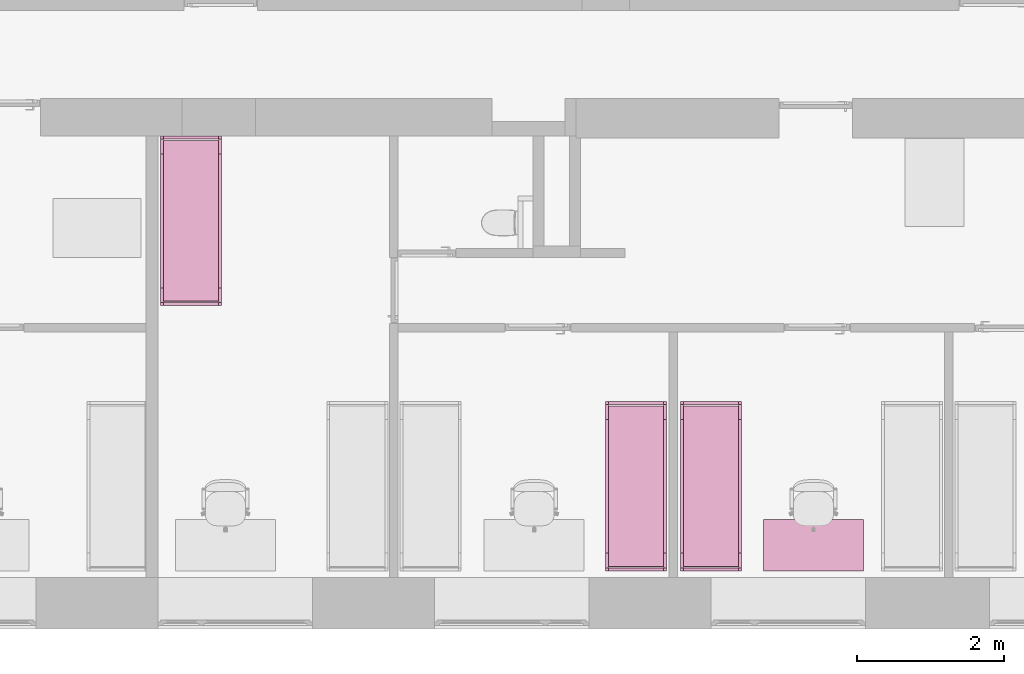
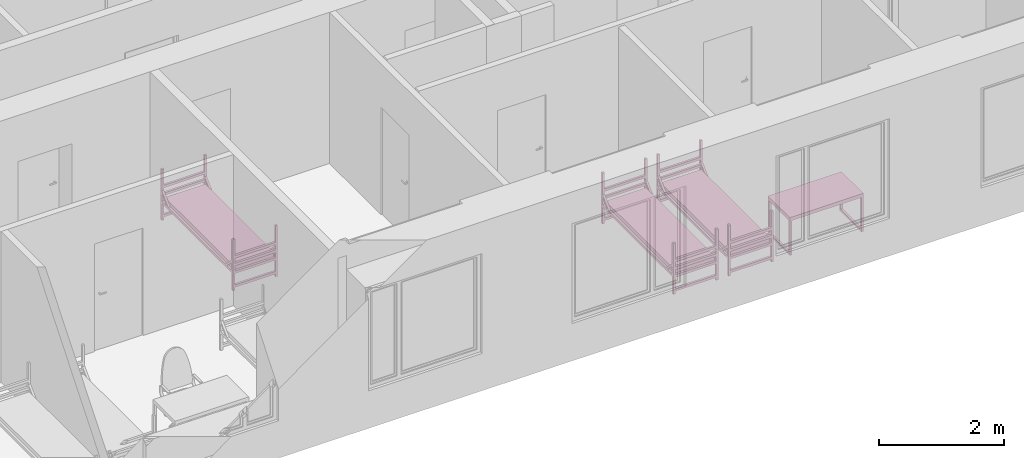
# One storey, part 36 of 46: 4 furnishings.
"""IFC2X3 building model written with IfcOpenShell, lengths in millimetres."""

from ifc_helpers import new_model, entity, si_unit, converted_unit, derived_unit, direction, frame, frame_2d, origin, place, context, subcontext, project, spatial, polyline, circle_curve, parameter, trimmed, segment, composite_curve, rectangle, outline, extrude, faceted_brep, source, transform, mapped, material, material_list, type_object, type_shapes, element, save


model = new_model("IFC2X3")

# Units and contexts
model_context = context("Model", 3, precision=0.01, world=origin(), true_north=direction((6.12303176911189e-17, 1.0)))
body_context = subcontext(model_context, "Body", "Model", "MODEL_VIEW")
ifc_project = project(units=[si_unit("LENGTHUNIT", "METRE", prefix="MILLI"), si_unit("AREAUNIT", "SQUARE_METRE"), si_unit("VOLUMEUNIT", "CUBIC_METRE"), converted_unit("PLANEANGLEUNIT", "DEGREE", entity("IfcRatioMeasure", 0.0174532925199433), si_unit("PLANEANGLEUNIT", "RADIAN"), dimensions=[0, 0, 0, 0, 0, 0, 0]), si_unit("MASSUNIT", "GRAM", prefix="KILO"), derived_unit("MASSDENSITYUNIT", [(si_unit("MASSUNIT", "GRAM", prefix="KILO"), 1), (si_unit("LENGTHUNIT", "METRE"), -3)]), si_unit("TIMEUNIT", "SECOND"), si_unit("FREQUENCYUNIT", "HERTZ"), si_unit("THERMODYNAMICTEMPERATUREUNIT", "DEGREE_CELSIUS"), derived_unit("THERMALTRANSMITTANCEUNIT", [(si_unit("MASSUNIT", "GRAM", prefix="KILO"), 1), (si_unit("THERMODYNAMICTEMPERATUREUNIT", "KELVIN"), -1), (si_unit("TIMEUNIT", "SECOND"), -3)]), derived_unit("VOLUMETRICFLOWRATEUNIT", [(si_unit("LENGTHUNIT", "METRE"), 3), (si_unit("TIMEUNIT", "SECOND"), -1)]), si_unit("ELECTRICCURRENTUNIT", "AMPERE"), si_unit("ELECTRICVOLTAGEUNIT", "VOLT"), si_unit("POWERUNIT", "WATT"), si_unit("FORCEUNIT", "NEWTON", prefix="KILO"), si_unit("ILLUMINANCEUNIT", "LUX"), si_unit("LUMINOUSFLUXUNIT", "LUMEN"), si_unit("LUMINOUSINTENSITYUNIT", "CANDELA"), derived_unit("USERDEFINED", [(si_unit("MASSUNIT", "GRAM", prefix="KILO"), -1), (si_unit("LENGTHUNIT", "METRE"), -2), (si_unit("TIMEUNIT", "SECOND"), 3), (si_unit("LUMINOUSFLUXUNIT", "LUMEN"), 1)]), derived_unit("LINEARVELOCITYUNIT", [(si_unit("LENGTHUNIT", "METRE"), 1), (si_unit("TIMEUNIT", "SECOND"), -1)]), si_unit("PRESSUREUNIT", "PASCAL"), derived_unit("USERDEFINED", [(si_unit("LENGTHUNIT", "METRE"), -2), (si_unit("MASSUNIT", "GRAM", prefix="KILO"), 1), (si_unit("TIMEUNIT", "SECOND"), -2)]), derived_unit("LINEARFORCEUNIT", [(si_unit("MASSUNIT", "GRAM", prefix="KILO"), 1), (si_unit("LENGTHUNIT", "METRE"), 1), (si_unit("TIMEUNIT", "SECOND"), -2), (si_unit("LENGTHUNIT", "METRE"), -1)]), derived_unit("PLANARFORCEUNIT", [(si_unit("MASSUNIT", "GRAM", prefix="KILO"), 1), (si_unit("LENGTHUNIT", "METRE"), 1), (si_unit("TIMEUNIT", "SECOND"), -2), (si_unit("LENGTHUNIT", "METRE"), -2)])], contexts=[model_context])

# Site, building, storey, space
site_placement = place(None, origin())
site = spatial("IfcSite", under=ifc_project, at=site_placement, Name="Default", CompositionType="ELEMENT")
building_placement = place(site_placement, origin())
building = spatial("IfcBuilding", under=site, at=building_placement, Name="SMA ARH", CompositionType="ELEMENT")
storey_placement = place(building_placement, origin())
storey = spatial("IfcBuildingStorey", under=building, at=storey_placement, Name="1 Korrus", CompositionType="ELEMENT", Elevation=0.0)
space_1_placement = place(storey_placement, origin())
space_1 = spatial("IfcSpace", under=storey, at=space_1_placement, Name="1-8", CompositionType="ELEMENT", InteriorOrExteriorSpace="INTERNAL")

# Furnishing
ifc_material_1 = material(Name="Madrats")
furniture_type_1 = type_object("IfcFurnitureType", Name="Kasarmu voodi ühekordne 2308x830:Kasarmu voodi ühekordne 2308x830", material=ifc_material_1)
shared_shape_1 = source(origin(), body_context, "Body", "SweptSolid", [
    extrude(rectangle(XDim=39.9999999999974, YDim=750.000000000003, at=frame_2d((-1.35003119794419e-13, -2.8421709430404e-14), x_axis=(1.0, 0.0))), frame((1.68638457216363, -1226.7969571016, 55.0), z_axis=(0.0, 0.0, 1.0), x_axis=(0.0, -1.0, 0.0)), (0.0, 0.0, 1.0), 49.9999999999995),
    extrude(rectangle(XDim=39.9999999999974, YDim=750.000000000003, at=frame_2d((-1.35003119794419e-13, -2.8421709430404e-14), x_axis=(1.0, 0.0))), frame((1.68638457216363, -1226.7969571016, 325.0), z_axis=(0.0, 0.0, 1.0), x_axis=(0.0, -1.0, 0.0)), (0.0, 0.0, 1.0), 49.9999999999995),
    extrude(rectangle(XDim=39.9999999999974, YDim=750.000000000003, at=frame_2d((-1.35003119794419e-13, -2.8421709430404e-14), x_axis=(1.0, 0.0))), frame((1.68638457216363, -1226.7969571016, 475.0), z_axis=(0.0, 0.0, 1.0), x_axis=(0.0, -1.0, 0.0)), (0.0, 0.0, 1.0), 49.9999999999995),
    extrude(rectangle(XDim=39.9999999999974, YDim=750.000000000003, at=frame_2d((-1.35003119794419e-13, -2.8421709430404e-14), x_axis=(1.0, 0.0))), frame((1.68638457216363, -1226.7969571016, 625.0), z_axis=(0.0, 0.0, 1.0), x_axis=(0.0, -1.0, 0.0)), (0.0, 0.0, 1.0), 50.0000000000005),
    extrude(rectangle(XDim=39.9999999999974, YDim=750.000000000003, at=frame_2d((1.35003119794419e-13, -2.8421709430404e-14), x_axis=(1.0, 0.0))), frame((1.68638457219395, 1041.2030428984, 55.0), z_axis=(0.0, 0.0, 1.0), x_axis=(0.0, -1.0, 0.0)), (0.0, 0.0, 1.0), 50.0000000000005),
    extrude(rectangle(XDim=39.9999999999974, YDim=750.000000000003, at=frame_2d((1.35003119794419e-13, -2.8421709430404e-14), x_axis=(1.0, 0.0))), frame((1.68638457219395, 1041.2030428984, 325.0), z_axis=(0.0, 0.0, 1.0), x_axis=(0.0, -1.0, 0.0)), (0.0, 0.0, 1.0), 50.0000000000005),
    extrude(rectangle(XDim=39.9999999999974, YDim=750.000000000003, at=frame_2d((1.35003119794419e-13, -2.8421709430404e-14), x_axis=(1.0, 0.0))), frame((1.68638457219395, 1041.2030428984, 475.0), z_axis=(0.0, 0.0, 1.0), x_axis=(0.0, -1.0, 0.0)), (0.0, 0.0, 1.0), 50.0000000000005),
    extrude(rectangle(XDim=39.9999999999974, YDim=750.000000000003, at=frame_2d((1.35003119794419e-13, -2.8421709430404e-14), x_axis=(1.0, 0.0))), frame((1.68638457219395, 1041.2030428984, 625.0), z_axis=(0.0, 0.0, 1.0), x_axis=(0.0, -1.0, 0.0)), (0.0, 0.0, 1.0), 49.9999999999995),
    extrude(outline(composite_curve([segment(trimmed(circle_curve(frame_2d((1085.0, -40.0), x_axis=(1.0, 0.0)), 10.0), [parameter(270.0)], [parameter(0.0)], True, "PARAMETER"), True, "CONTINUOUS"), segment(polyline([(1095.0, -40.0), (1095.0, 40.0)]), True, "CONTINUOUS"), segment(trimmed(circle_curve(frame_2d((1085.0, 40.0), x_axis=(1.0, 0.0)), 10.0), [parameter(0.0)], [parameter(90.0000000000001)], True, "PARAMETER"), True, "CONTINUOUS"), segment(polyline([(1085.0, 50.0), (-1085.0, 50.0)]), True, "CONTINUOUS"), segment(trimmed(circle_curve(frame_2d((-1085.0, 40.0), x_axis=(1.0, 0.0)), 10.0), [parameter(90.0000000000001)], [parameter(180.0)], True, "PARAMETER"), True, "CONTINUOUS"), segment(polyline([(-1095.0, 40.0), (-1095.0, -40.0)]), True, "CONTINUOUS"), segment(trimmed(circle_curve(frame_2d((-1085.0, -40.0), x_axis=(1.0, 0.0)), 10.0), [parameter(180.0)], [parameter(270.0)], True, "PARAMETER"), True, "CONTINUOUS"), segment(polyline([(-1085.0, -50.0), (1085.0, -50.0)]), True, "CONTINUOUS")], self_intersect=False)), frame((-373.313615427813, -92.7969571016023, 405.0), z_axis=(1.0, 0.0, 0.0), x_axis=(0.0, -1.0, 0.0)), (0.0, 0.0, 1.0), 750.000000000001),
    extrude(outline(polyline([(-1114.0, -100.0), (1114.0, -100.0), (1114.0, -50.0), (961.59199141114, -50.0), (1114.0, 100.0), (1114.0, 150.0), (910.789321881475, -50.0), (-910.789321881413, -50.0), (-1114.0, 150.0), (-1114.0, 100.0), (-961.591991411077, -50.0), (-1114.0, -50.0), (-1114.0, -100.0)])), frame((-413.313615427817, -92.7969571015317, 430.0), z_axis=(1.0, 0.0, 0.0), x_axis=(0.0, 1.0, 0.0)), (0.0, 0.0, 1.0), 39.9999999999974),
    extrude(outline(polyline([(-1114.0, -100.0), (1114.0, -100.0), (1114.0, -50.0), (961.591991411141, -50.0), (1114.0, 100.0), (1114.0, 150.0), (910.789321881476, -50.0), (-910.789321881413, -50.0), (-1114.0, 150.0), (-1114.0, 100.0), (-961.591991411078, -50.0), (-1114.0, -50.0), (-1114.0, -100.0)])), frame((376.686384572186, -92.796957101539, 430.0), z_axis=(1.0, 0.0, 0.0), x_axis=(0.0, 1.0, 0.0)), (0.0, 0.0, 1.0), 39.9999999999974),
    extrude(rectangle(XDim=39.9999999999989, YDim=39.9999999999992, at=frame_2d((-6.75015598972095e-14, 0.0), x_axis=(1.0, 0.0))), frame((396.686384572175, -1226.79695710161, 0.0), z_axis=(0.0, 0.0, 1.0), x_axis=(0.0, 1.0, 0.0)), (0.0, 0.0, 1.0), 995.0),
    extrude(rectangle(XDim=39.9999999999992, YDim=39.9999999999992, at=frame_2d((-1.35003119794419e-13, 0.0), x_axis=(1.0, 0.0))), frame((396.686384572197, 1041.20304289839, 0.0), z_axis=(0.0, 0.0, 1.0), x_axis=(0.0, 1.0, 0.0)), (0.0, 0.0, 1.0), 995.0),
    extrude(rectangle(XDim=40.0000000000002, YDim=39.9999999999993, at=frame_2d((-1.35003119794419e-13, 0.0), x_axis=(1.0, 0.0))), frame((-393.313615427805, 1041.2030428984, 0.0), z_axis=(0.0, 0.0, 1.0), x_axis=(0.0, 1.0, 0.0)), (0.0, 0.0, 1.0), 995.0),
    extrude(rectangle(XDim=39.9999999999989, YDim=39.9999999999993, at=frame_2d((-6.75015598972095e-14, 0.0), x_axis=(1.0, 0.0))), frame((-393.313615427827, -1226.7969571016, 0.0), z_axis=(0.0, 0.0, 1.0), x_axis=(0.0, 1.0, 0.0)), (0.0, 0.0, 1.0), 995.0),
])
type_shapes(furniture_type_1, [shared_shape_1])
furnishing_1_placement = place(space_1_placement, frame((22820.3136154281, 1336.79695710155, 0.0)))
element("IfcFurnishingElement", 1, at=furnishing_1_placement, inside=space_1, type_object=furniture_type_1, material=ifc_material_1, Name="Kasarmu voodi ühekordne 2308x830:Kasarmu voodi ühekordne 2308x830", ObjectType="Kasarmu voodi ühekordne 2308x830:Kasarmu voodi ühekordne 2308x830", context=body_context, shape_type="MappedRepresentation", body=[
    mapped(shared_shape_1, transform((0.0, 0.0, 0.0), scale=1.0)),
])

# Space
space_2_placement = place(storey_placement, origin())
space_2 = spatial("IfcSpace", under=storey, at=space_2_placement, Name="1-7", CompositionType="ELEMENT", InteriorOrExteriorSpace="INTERNAL")

# Furnishing
furnishing_2_placement = place(space_2_placement, frame((23839.3136154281, 1336.79695710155, 0.0)))
element("IfcFurnishingElement", 2, at=furnishing_2_placement, inside=space_2, type_object=furniture_type_1, material=ifc_material_1, Name="Kasarmu voodi ühekordne 2308x830:Kasarmu voodi ühekordne 2308x830", ObjectType="Kasarmu voodi ühekordne 2308x830:Kasarmu voodi ühekordne 2308x830", context=body_context, shape_type="MappedRepresentation", body=[
    mapped(shared_shape_1, transform((0.0, 0.0, 0.0), scale=1.0)),
])

# Space
space_3_placement = place(storey_placement, origin())
space_3 = spatial("IfcSpace", under=storey, at=space_3_placement, Name="1-9", CompositionType="ELEMENT", InteriorOrExteriorSpace="INTERNAL")

# Furnishings
furnishing_3_placement = place(space_3_placement, frame((16771.1863845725, 4763.20304289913, 0.0), z_axis=(0.0, 0.0, 1.0), x_axis=(-1.0, 0.0, 0.0)))
element("IfcFurnishingElement", 3, at=furnishing_3_placement, inside=space_3, type_object=furniture_type_1, material=ifc_material_1, Name="Kasarmu voodi ühekordne 2308x830:Kasarmu voodi ühekordne 2308x830", ObjectType="Kasarmu voodi ühekordne 2308x830:Kasarmu voodi ühekordne 2308x830", context=body_context, shape_type="MappedRepresentation", body=[
    mapped(shared_shape_1, transform((0.0, 0.0, 0.0), scale=1.0)),
])
ifc_material_2 = material(Name="<Unnamed>")
ifc_material_list = material_list([ifc_material_2, ifc_material_2])
furniture_type_2 = type_object("IfcFurnitureType", Name="kirjutuslaud 1360x700mm:kirjutuslaud 1360x700mm", material=ifc_material_list)
shared_shape_2 = source(origin(), body_context, "Body", "Brep", [
    faceted_brep([(680.0, -350.0, 720.0), (680.0, 350.0, 720.0), (680.0, 350.0, 750.0), (680.0, -350.0, 750.0), (-680.0, -350.0, 720.0), (-680.0, -350.0, 750.0), (-680.0, 350.0, 750.0), (-680.0, 350.0, 720.0)], [[[0, 1, 2, 3]], [[4, 5, 6, 7]], [[1, 0, 4, 7]], [[2, 1, 7, 6]], [[3, 2, 6, 5]], [[0, 3, 5, 4]]]),
    faceted_brep([(-640.0, -310.0, 680.0), (-640.0, 310.0, 680.0), (-640.0, 310.0, 720.0), (-640.0, -310.0, 720.0), (-680.0, -350.0, 720.0), (-680.0, 350.0, 720.0), (-680.0, 350.0, 10.0), (-680.0, -350.0, 10.0), (-680.0, 310.0, 680.0), (-680.0, -310.0, 680.0), (-680.0, -310.0, 50.0), (-680.0, 310.0, 50.0), (-640.0, -350.0, 10.0), (-640.0, -350.0, 680.0), (640.0, -350.0, 680.0), (640.0, -350.0, 10.0), (680.0, -350.0, 10.0), (680.0, -350.0, 720.0), (-640.0, 350.0, 10.0), (680.0, 350.0, 720.0), (680.0, 350.0, 10.0), (640.0, 350.0, 10.0), (640.0, 350.0, 680.0), (-640.0, 350.0, 680.0), (640.0, 310.0, 720.0), (640.0, -310.0, 720.0), (-640.0, 310.0, 50.0), (-640.0, -310.0, 50.0), (640.0, -310.0, 680.0), (640.0, 310.0, 680.0), (680.0, 310.0, 680.0), (680.0, 310.0, 50.0), (680.0, -310.0, 50.0), (680.0, -310.0, 680.0), (640.0, -310.0, 50.0), (640.0, 310.0, 50.0)], [[[0, 1, 2, 3]], [[4, 5, 6, 7], [8, 9, 10, 11]], [[4, 7, 12, 13, 14, 15, 16, 17]], [[18, 12, 7, 6]], [[6, 5, 19, 20, 21, 22, 23, 18]], [[19, 5, 4, 17], [2, 24, 25, 3]], [[26, 1, 8, 11]], [[27, 26, 11, 10]], [[0, 27, 10, 9]], [[1, 0, 9, 8]], [[14, 13, 0, 28]], [[24, 2, 1, 29]], [[3, 25, 28, 0]], [[17, 16, 20, 19], [30, 31, 32, 33]], [[21, 15, 14, 28, 34, 35, 29, 22]], [[20, 16, 15, 21]], [[31, 30, 29, 35]], [[32, 31, 35, 34]], [[33, 32, 34, 28]], [[30, 33, 28, 29]], [[29, 28, 25, 24]], [[29, 1, 23, 22]], [[12, 18, 23, 1, 26, 27, 0, 13]]]),
    faceted_brep([(-663.729456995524, -270.466136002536, 0.0), (-659.847171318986, -269.955023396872, 0.0), (-655.964885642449, -270.466136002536, 0.0), (-652.347171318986, -271.964642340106, 0.0), (-649.240569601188, -274.348421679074, 0.0), (-646.85679026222, -277.455023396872, 0.0), (-645.35828392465, -281.072737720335, 0.0), (-644.847171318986, -284.955023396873, 0.0), (-645.35828392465, -288.83730907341, 0.0), (-646.85679026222, -292.455023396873, 0.0), (-649.240569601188, -295.561625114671, 0.0), (-652.347171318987, -297.945404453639, 0.0), (-655.964885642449, -299.443910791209, 0.0), (-659.847171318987, -299.955023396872, 0.0), (-663.729456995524, -299.443910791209, 0.0), (-667.347171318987, -297.945404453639, 0.0), (-670.453773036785, -295.561625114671, 0.0), (-672.837552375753, -292.455023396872, 0.0), (-674.336058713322, -288.83730907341, 0.0), (-674.847171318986, -284.955023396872, 0.0), (-674.336058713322, -281.072737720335, 0.0), (-672.837552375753, -277.455023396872, 0.0), (-670.453773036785, -274.348421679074, 0.0), (-667.347171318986, -271.964642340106, 0.0), (-655.964885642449, -299.443910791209, 10.0), (-652.347171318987, -297.945404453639, 10.0), (-649.240569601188, -295.561625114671, 10.0), (-646.85679026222, -292.455023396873, 10.0), (-645.35828392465, -288.83730907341, 10.0), (-644.847171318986, -284.955023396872, 10.0), (-645.35828392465, -281.072737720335, 10.0), (-646.85679026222, -277.455023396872, 10.0), (-649.240569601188, -274.348421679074, 10.0), (-652.347171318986, -271.964642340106, 10.0), (-655.964885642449, -270.466136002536, 10.0), (-659.847171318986, -269.955023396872, 10.0), (-663.729456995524, -270.466136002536, 10.0), (-667.347171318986, -271.964642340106, 10.0), (-670.453773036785, -274.348421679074, 10.0), (-672.837552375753, -277.455023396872, 10.0), (-674.336058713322, -281.072737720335, 10.0), (-674.847171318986, -284.955023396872, 10.0), (-674.336058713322, -288.83730907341, 10.0), (-672.837552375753, -292.455023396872, 10.0), (-670.453773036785, -295.561625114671, 10.0), (-667.347171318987, -297.945404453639, 10.0), (-663.729456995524, -299.443910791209, 10.0), (-659.847171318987, -299.955023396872, 10.0)], [[[0, 1, 2, 3, 4, 5, 6, 7, 8, 9, 10, 11, 12, 13, 14, 15, 16, 17, 18, 19, 20, 21, 22, 23]], [[24, 25, 26, 27, 28, 29, 30, 31, 32, 33, 34, 35, 36, 37, 38, 39, 40, 41, 42, 43, 44, 45, 46, 47]], [[18, 42, 41, 19]], [[17, 43, 42, 18]], [[45, 44, 16, 15]], [[17, 16, 44, 43]], [[46, 45, 15, 14]], [[47, 46, 14, 13]], [[12, 24, 47, 13]], [[11, 25, 24, 12]], [[27, 26, 10, 9]], [[11, 10, 26, 25]], [[28, 27, 9, 8]], [[29, 28, 8, 7]], [[6, 30, 29, 7]], [[5, 31, 30, 6]], [[33, 32, 4, 3]], [[5, 4, 32, 31]], [[34, 33, 3, 2]], [[35, 34, 2, 1]], [[0, 36, 35, 1]], [[23, 37, 36, 0]], [[39, 38, 22, 21]], [[23, 22, 38, 37]], [[40, 39, 21, 20]], [[41, 40, 20, 19]]]),
    faceted_brep([(-655.964885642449, 270.466136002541, 10.0), (-652.347171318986, 271.964642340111, 10.0), (-649.240569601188, 274.348421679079, 10.0), (-646.85679026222, 277.455023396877, 10.0), (-645.35828392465, 281.07273772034, 10.0), (-644.847171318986, 284.955023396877, 10.0), (-645.35828392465, 288.837309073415, 10.0), (-646.85679026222, 292.455023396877, 10.0), (-649.240569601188, 295.561625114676, 10.0), (-652.347171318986, 297.945404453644, 10.0), (-655.964885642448, 299.443910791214, 10.0), (-659.847171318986, 299.955023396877, 10.0), (-663.729456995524, 299.443910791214, 10.0), (-667.347171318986, 297.945404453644, 10.0), (-670.453773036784, 295.561625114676, 10.0), (-672.837552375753, 292.455023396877, 10.0), (-674.336058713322, 288.837309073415, 10.0), (-674.847171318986, 284.955023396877, 10.0), (-674.336058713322, 281.07273772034, 10.0), (-672.837552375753, 277.455023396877, 10.0), (-670.453773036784, 274.348421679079, 10.0), (-667.347171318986, 271.964642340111, 10.0), (-663.729456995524, 270.466136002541, 10.0), (-659.847171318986, 269.955023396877, 10.0), (-655.964885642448, 299.443910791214, 0.0), (-652.347171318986, 297.945404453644, 0.0), (-649.240569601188, 295.561625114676, 0.0), (-646.85679026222, 292.455023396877, 0.0), (-645.35828392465, 288.837309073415, 0.0), (-644.847171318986, 284.955023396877, 0.0), (-645.35828392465, 281.07273772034, 0.0), (-646.85679026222, 277.455023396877, 0.0), (-649.240569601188, 274.348421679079, 0.0), (-652.347171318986, 271.964642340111, 0.0), (-655.964885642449, 270.466136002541, 0.0), (-659.847171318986, 269.955023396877, 0.0), (-663.729456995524, 270.466136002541, 0.0), (-667.347171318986, 271.964642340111, 0.0), (-670.453773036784, 274.348421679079, 0.0), (-672.837552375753, 277.455023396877, 0.0), (-674.336058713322, 281.07273772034, 0.0), (-674.847171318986, 284.955023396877, 0.0), (-674.336058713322, 288.837309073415, 0.0), (-672.837552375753, 292.455023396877, 0.0), (-670.453773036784, 295.561625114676, 0.0), (-667.347171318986, 297.945404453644, 0.0), (-663.729456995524, 299.443910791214, 0.0), (-659.847171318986, 299.955023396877, 0.0)], [[[0, 1, 2, 3, 4, 5, 6, 7, 8, 9, 10, 11, 12, 13, 14, 15, 16, 17, 18, 19, 20, 21, 22, 23]], [[24, 25, 26, 27, 28, 29, 30, 31, 32, 33, 34, 35, 36, 37, 38, 39, 40, 41, 42, 43, 44, 45, 46, 47]], [[40, 18, 17, 41]], [[39, 19, 18, 40]], [[21, 20, 38, 37]], [[39, 38, 20, 19]], [[22, 21, 37, 36]], [[23, 22, 36, 35]], [[34, 0, 23, 35]], [[33, 1, 0, 34]], [[3, 2, 32, 31]], [[33, 32, 2, 1]], [[4, 3, 31, 30]], [[5, 4, 30, 29]], [[28, 6, 5, 29]], [[27, 7, 6, 28]], [[9, 8, 26, 25]], [[27, 26, 8, 7]], [[10, 9, 25, 24]], [[11, 10, 24, 47]], [[46, 12, 11, 47]], [[45, 13, 12, 46]], [[15, 14, 44, 43]], [[45, 44, 14, 13]], [[16, 15, 43, 42]], [[17, 16, 42, 41]]]),
    faceted_brep([(656.270543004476, -270.466136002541, 0.0), (660.152828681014, -269.955023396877, 0.0), (664.035114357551, -270.466136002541, 0.0), (667.652828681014, -271.96464234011, 0.0), (670.759430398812, -274.348421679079, 0.0), (673.14320973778, -277.455023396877, 0.0), (674.64171607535, -281.072737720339, 0.0), (675.152828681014, -284.955023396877, 0.0), (674.64171607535, -288.837309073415, 0.0), (673.14320973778, -292.455023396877, 0.0), (670.759430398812, -295.561625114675, 0.0), (667.652828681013, -297.945404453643, 0.0), (664.035114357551, -299.443910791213, 0.0), (660.152828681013, -299.955023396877, 0.0), (656.270543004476, -299.443910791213, 0.0), (652.652828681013, -297.945404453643, 0.0), (649.546226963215, -295.561625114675, 0.0), (647.162447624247, -292.455023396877, 0.0), (645.663941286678, -288.837309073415, 0.0), (645.152828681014, -284.955023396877, 0.0), (645.663941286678, -281.072737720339, 0.0), (647.162447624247, -277.455023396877, 0.0), (649.546226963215, -274.348421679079, 0.0), (652.652828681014, -271.96464234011, 0.0), (664.035114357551, -299.443910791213, 10.0), (667.652828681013, -297.945404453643, 10.0), (670.759430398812, -295.561625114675, 10.0), (673.14320973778, -292.455023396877, 10.0), (674.64171607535, -288.837309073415, 10.0), (675.152828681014, -284.955023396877, 10.0), (674.64171607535, -281.072737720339, 10.0), (673.14320973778, -277.455023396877, 10.0), (670.759430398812, -274.348421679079, 10.0), (667.652828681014, -271.96464234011, 10.0), (664.035114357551, -270.466136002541, 10.0), (660.152828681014, -269.955023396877, 10.0), (656.270543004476, -270.466136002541, 10.0), (652.652828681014, -271.96464234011, 10.0), (649.546226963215, -274.348421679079, 10.0), (647.162447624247, -277.455023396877, 10.0), (645.663941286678, -281.072737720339, 10.0), (645.152828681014, -284.955023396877, 10.0), (645.663941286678, -288.837309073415, 10.0), (647.162447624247, -292.455023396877, 10.0), (649.546226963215, -295.561625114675, 10.0), (652.652828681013, -297.945404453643, 10.0), (656.270543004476, -299.443910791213, 10.0), (660.152828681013, -299.955023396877, 10.0)], [[[0, 1, 2, 3, 4, 5, 6, 7, 8, 9, 10, 11, 12, 13, 14, 15, 16, 17, 18, 19, 20, 21, 22, 23]], [[24, 25, 26, 27, 28, 29, 30, 31, 32, 33, 34, 35, 36, 37, 38, 39, 40, 41, 42, 43, 44, 45, 46, 47]], [[18, 42, 41, 19]], [[17, 43, 42, 18]], [[45, 44, 16, 15]], [[17, 16, 44, 43]], [[46, 45, 15, 14]], [[47, 46, 14, 13]], [[12, 24, 47, 13]], [[11, 25, 24, 12]], [[27, 26, 10, 9]], [[11, 10, 26, 25]], [[28, 27, 9, 8]], [[29, 28, 8, 7]], [[6, 30, 29, 7]], [[5, 31, 30, 6]], [[33, 32, 4, 3]], [[5, 4, 32, 31]], [[34, 33, 3, 2]], [[35, 34, 2, 1]], [[0, 36, 35, 1]], [[23, 37, 36, 0]], [[39, 38, 22, 21]], [[23, 22, 38, 37]], [[40, 39, 21, 20]], [[41, 40, 20, 19]]]),
    faceted_brep([(664.035114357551, 270.466136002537, 10.0), (667.652828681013, 271.964642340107, 10.0), (670.759430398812, 274.348421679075, 10.0), (673.14320973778, 277.455023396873, 10.0), (674.64171607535, 281.072737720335, 10.0), (675.152828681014, 284.955023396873, 10.0), (674.64171607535, 288.837309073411, 10.0), (673.14320973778, 292.455023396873, 10.0), (670.759430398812, 295.561625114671, 10.0), (667.652828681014, 297.94540445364, 10.0), (664.035114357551, 299.443910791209, 10.0), (660.152828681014, 299.955023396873, 10.0), (656.270543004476, 299.443910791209, 10.0), (652.652828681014, 297.94540445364, 10.0), (649.546226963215, 295.561625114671, 10.0), (647.162447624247, 292.455023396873, 10.0), (645.663941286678, 288.837309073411, 10.0), (645.152828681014, 284.955023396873, 10.0), (645.663941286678, 281.072737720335, 10.0), (647.162447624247, 277.455023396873, 10.0), (649.546226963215, 274.348421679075, 10.0), (652.652828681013, 271.964642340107, 10.0), (656.270543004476, 270.466136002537, 10.0), (660.152828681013, 269.955023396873, 10.0), (664.035114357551, 299.443910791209, 0.0), (667.652828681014, 297.94540445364, 0.0), (670.759430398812, 295.561625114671, 0.0), (673.14320973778, 292.455023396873, 0.0), (674.64171607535, 288.837309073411, 0.0), (675.152828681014, 284.955023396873, 0.0), (674.64171607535, 281.072737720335, 0.0), (673.14320973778, 277.455023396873, 0.0), (670.759430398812, 274.348421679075, 0.0), (667.652828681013, 271.964642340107, 0.0), (664.035114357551, 270.466136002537, 0.0), (660.152828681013, 269.955023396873, 0.0), (656.270543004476, 270.466136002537, 0.0), (652.652828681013, 271.964642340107, 0.0), (649.546226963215, 274.348421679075, 0.0), (647.162447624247, 277.455023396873, 0.0), (645.663941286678, 281.072737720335, 0.0), (645.152828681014, 284.955023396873, 0.0), (645.663941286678, 288.837309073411, 0.0), (647.162447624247, 292.455023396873, 0.0), (649.546226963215, 295.561625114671, 0.0), (652.652828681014, 297.94540445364, 0.0), (656.270543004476, 299.443910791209, 0.0), (660.152828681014, 299.955023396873, 0.0)], [[[0, 1, 2, 3, 4, 5, 6, 7, 8, 9, 10, 11, 12, 13, 14, 15, 16, 17, 18, 19, 20, 21, 22, 23]], [[24, 25, 26, 27, 28, 29, 30, 31, 32, 33, 34, 35, 36, 37, 38, 39, 40, 41, 42, 43, 44, 45, 46, 47]], [[40, 18, 17, 41]], [[39, 19, 18, 40]], [[21, 20, 38, 37]], [[39, 38, 20, 19]], [[22, 21, 37, 36]], [[23, 22, 36, 35]], [[34, 0, 23, 35]], [[33, 1, 0, 34]], [[3, 2, 32, 31]], [[33, 32, 2, 1]], [[4, 3, 31, 30]], [[5, 4, 30, 29]], [[28, 6, 5, 29]], [[27, 7, 6, 28]], [[9, 8, 26, 25]], [[27, 26, 8, 7]], [[10, 9, 25, 24]], [[11, 10, 24, 47]], [[46, 12, 11, 47]], [[45, 13, 12, 46]], [[15, 14, 44, 43]], [[45, 44, 14, 13]], [[16, 15, 43, 42]], [[17, 16, 42, 41]]]),
])
type_shapes(furniture_type_2, [shared_shape_2])
furnishing_4_placement = place(space_2_placement, frame((25237.0, 440.0, 0.0)))
element("IfcFurnishingElement", 4, at=furnishing_4_placement, inside=space_2, type_object=furniture_type_2, Name="kirjutuslaud 1360x700mm:kirjutuslaud 1360x700mm", ObjectType="kirjutuslaud 1360x700mm:kirjutuslaud 1360x700mm", context=body_context, shape_type="MappedRepresentation", body=[
    mapped(shared_shape_2, transform((0.0, 0.0, 0.0), scale=1.0)),
])

save(model, "model.ifc")
